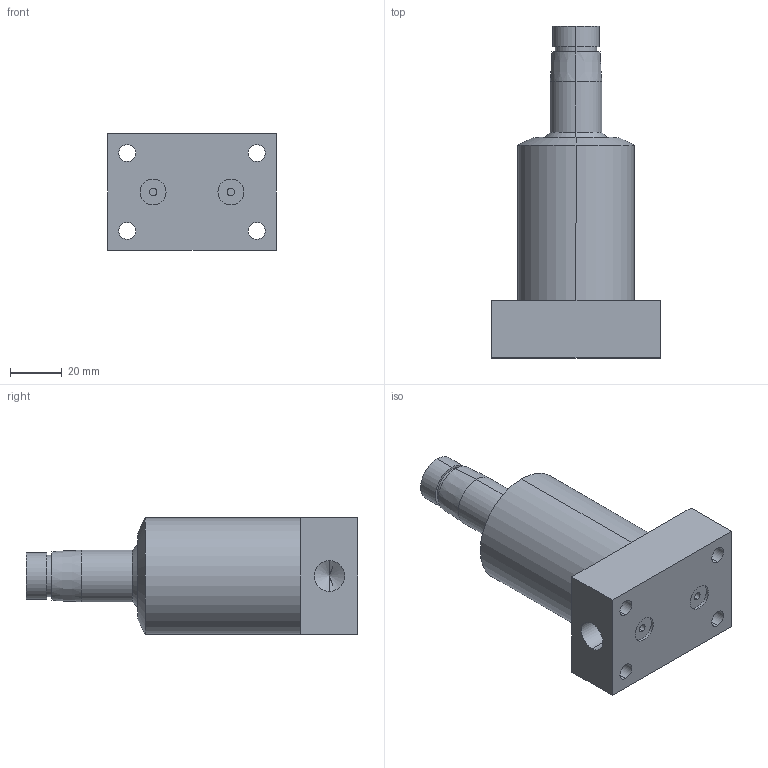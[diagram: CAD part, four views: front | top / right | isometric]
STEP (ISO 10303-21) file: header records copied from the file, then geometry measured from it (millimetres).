
FILE_DESCRIPTION (( 'STEP AP214' ), '1' );
FILE_NAME ('HPS-25-D-B.STEP', '2021-10-18T01:09:26', ( '' ), ( '' ), 'SwSTEP 2.0', 'SolidWorks 2016', '' );
FILE_SCHEMA (( 'AUTOMOTIVE_DESIGN' ));
Length unit declared in the file: millimetre
Products named in the file (1): HPS-25-D-B
Bounding box: 65 x 128 x 45 mm (x, y, z)
Volume: 169227.9 mm3; surface area: 24749.5 mm2
Topology: 1 solids, 1 shells, 53 faces, 118 edges, 72 vertices
Faces by surface type: cylinder 28, plane 15, cone 10
Entity records: 1614 total; most frequent: DIRECTION 284, CARTESIAN_POINT 240, ORIENTED_EDGE 228, AXIS2_PLACEMENT_3D 116, EDGE_CURVE 114, VERTEX_POINT 72, EDGE_LOOP 70, CIRCLE 62
